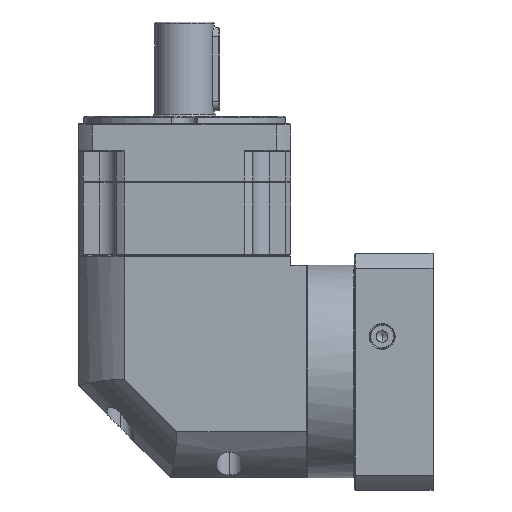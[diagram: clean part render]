
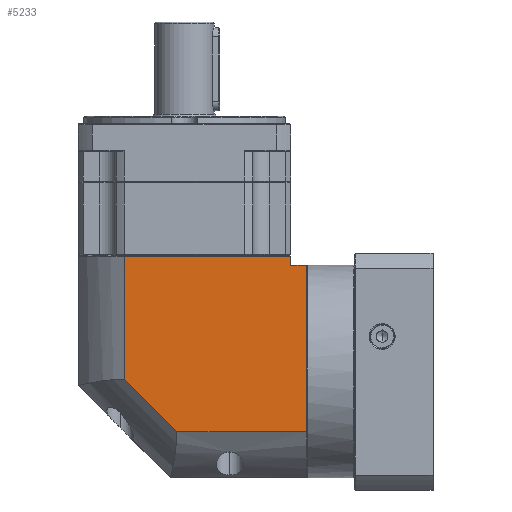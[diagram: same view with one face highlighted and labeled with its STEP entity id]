
A CAD part, left-side view. The second image highlights one B-rep face of the part: STEP entity #5233.
In plain terms, the highlighted planar face has unit normal (-1, 0, 0).
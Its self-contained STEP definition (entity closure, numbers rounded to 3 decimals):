
#5233 = ADVANCED_FACE ( 'NONE', ( #110194 ), #57328, .F. ) ;
#7610 = LINE ( 'NONE', #83822, #146339 ) ;
#8085 = LINE ( 'NONE', #52792, #142554 ) ;
#11286 = EDGE_CURVE ( 'NONE', #86494, #90005, #7610, .T. ) ;
#12994 = DIRECTION ( 'NONE',  ( 0., 0., 1. ) ) ;
#13061 = VERTEX_POINT ( 'NONE', #21703 ) ;
#14677 = LINE ( 'NONE', #22545, #81968 ) ;
#16201 = DIRECTION ( 'NONE',  ( 0., 1., 0. ) ) ;
#17882 = EDGE_CURVE ( 'NONE', #90005, #155745, #90448, .T. ) ;
#21703 = CARTESIAN_POINT ( 'NONE',  ( -240.345, -74.943, 98.235 ) ) ;
#22545 = CARTESIAN_POINT ( 'NONE',  ( -240.345, 40.057, 103.235 ) ) ;
#29727 = ORIENTED_EDGE ( 'NONE', *, *, #17882, .F. ) ;
#30881 = DIRECTION ( 'NONE',  ( 1., 0., 0. ) ) ;
#31031 = VECTOR ( 'NONE', #16201, 1000. ) ;
#35240 = LINE ( 'NONE', #150680, #31031 ) ;
#35562 = DIRECTION ( 'NONE',  ( 0., 0., -1. ) ) ;
#36048 = DIRECTION ( 'NONE',  ( 0., -1., 0. ) ) ;
#38610 = EDGE_CURVE ( 'NONE', #13061, #64364, #151127, .T. ) ;
#39264 = DIRECTION ( 'NONE',  ( 0., 0., 1. ) ) ;
#48685 = AXIS2_PLACEMENT_3D ( 'NONE', #111360, #30881, #124837 ) ;
#48900 = CARTESIAN_POINT ( 'NONE',  ( -240.345, -13.382, 8.335 ) ) ;
#50028 = CARTESIAN_POINT ( 'NONE',  ( -240.345, -13.382, 8.335 ) ) ;
#50328 = VERTEX_POINT ( 'NONE', #93862 ) ;
#51244 = ORIENTED_EDGE ( 'NONE', *, *, #171197, .F. ) ;
#52416 = LINE ( 'NONE', #116061, #84030 ) ;
#52792 = CARTESIAN_POINT ( 'NONE',  ( -240.345, 14.956, 109.735 ) ) ;
#57328 = PLANE ( 'NONE',  #48685 ) ;
#64364 = VERTEX_POINT ( 'NONE', #121704 ) ;
#75341 = ORIENTED_EDGE ( 'NONE', *, *, #77418, .T. ) ;
#77418 = EDGE_CURVE ( 'NONE', #111997, #13061, #35240, .T. ) ;
#81968 = VECTOR ( 'NONE', #36048, 1000. ) ;
#83822 = CARTESIAN_POINT ( 'NONE',  ( -240.345, 40.057, 8.335 ) ) ;
#84030 = VECTOR ( 'NONE', #35562, 1000. ) ;
#84116 = CARTESIAN_POINT ( 'NONE',  ( -240.345, -83.343, 8.335 ) ) ;
#86494 = VERTEX_POINT ( 'NONE', #84116 ) ;
#90005 = VERTEX_POINT ( 'NONE', #48900 ) ;
#90448 = LINE ( 'NONE', #50028, #161899 ) ;
#91027 = ORIENTED_EDGE ( 'NONE', *, *, #38610, .T. ) ;
#91237 = DIRECTION ( 'NONE',  ( 0., 0.707, 0.707 ) ) ;
#93862 = CARTESIAN_POINT ( 'NONE',  ( -240.345, 14.956, 103.235 ) ) ;
#104269 = EDGE_CURVE ( 'NONE', #111997, #86494, #52416, .T. ) ;
#104483 = ORIENTED_EDGE ( 'NONE', *, *, #140067, .F. ) ;
#110194 = FACE_OUTER_BOUND ( 'NONE', #129417, .T. ) ;
#111360 = CARTESIAN_POINT ( 'NONE',  ( -240.345, 40.057, 109.735 ) ) ;
#111997 = VERTEX_POINT ( 'NONE', #171546 ) ;
#115378 = VECTOR ( 'NONE', #12994, 1000. ) ;
#116061 = CARTESIAN_POINT ( 'NONE',  ( -240.345, -83.343, 109.735 ) ) ;
#121704 = CARTESIAN_POINT ( 'NONE',  ( -240.345, -74.943, 103.235 ) ) ;
#124837 = DIRECTION ( 'NONE',  ( 0., 1., 0. ) ) ;
#129417 = EDGE_LOOP ( 'NONE', ( #104483, #29727, #153978, #155488, #75341, #91027, #51244 ) ) ;
#138920 = CARTESIAN_POINT ( 'NONE',  ( -240.345, 14.956, 36.673 ) ) ;
#140067 = EDGE_CURVE ( 'NONE', #155745, #50328, #8085, .T. ) ;
#142554 = VECTOR ( 'NONE', #39264, 1000. ) ;
#146339 = VECTOR ( 'NONE', #166547, 1000. ) ;
#150680 = CARTESIAN_POINT ( 'NONE',  ( -240.345, -74.943, 98.235 ) ) ;
#151127 = LINE ( 'NONE', #159842, #115378 ) ;
#153978 = ORIENTED_EDGE ( 'NONE', *, *, #11286, .F. ) ;
#155488 = ORIENTED_EDGE ( 'NONE', *, *, #104269, .F. ) ;
#155745 = VERTEX_POINT ( 'NONE', #138920 ) ;
#159842 = CARTESIAN_POINT ( 'NONE',  ( -240.345, -74.943, -16.765 ) ) ;
#161899 = VECTOR ( 'NONE', #91237, 1000. ) ;
#166547 = DIRECTION ( 'NONE',  ( 0., 1., 0. ) ) ;
#171197 = EDGE_CURVE ( 'NONE', #50328, #64364, #14677, .T. ) ;
#171546 = CARTESIAN_POINT ( 'NONE',  ( -240.345, -83.343, 98.235 ) ) ;
